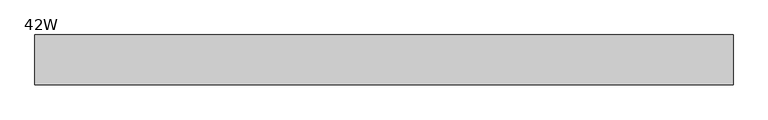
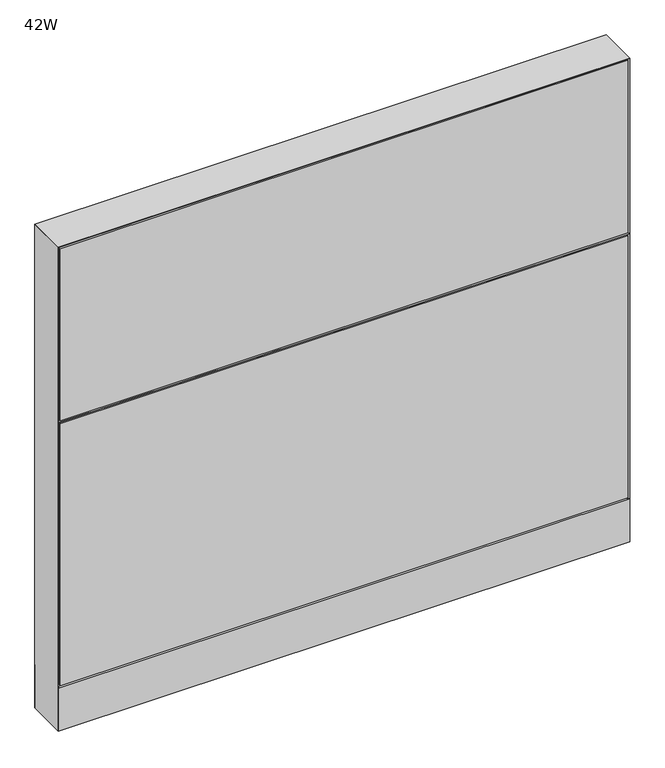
"""IFC4 building model written with IfcOpenShell, lengths in millimetres: furniture geometry, Steelcase - Montage - Frame - 38H - Enhanced Standard - Base Cavity : 42W."""

from ifc_helpers import new_model, si_unit, point, frame, frame_2d, origin, origin_with_axes, place, context, project, spatial, polyline, circle_curve, trimmed, segment, composite_curve, outline, extrude, faceted_brep, source, transform, mapped, element, save


def furniture_42w_d7db1be3(model_context):
    return source(origin(), model_context, "Body", "SolidModel", [
        extrude(outline(polyline([(3.175, 31.7500194), (3.175, 38.1000194), (1063.625, 38.1000194), (1063.625, 31.7500194), (3.175, 31.7500194)])), frame((0.0, 0.0, 92.075), z_axis=(0.0, 0.0, 1.0), x_axis=(1.0, 0.0, 0.0)), (0.0, 0.0, 1.0), 863.6),
        faceted_brep([(0.0, -38.1026297, 612.775), (1066.8, -38.1026297, 612.775), (1060.4500047, -31.7526299, 619.1249997), (6.3499917, -31.7526299, 619.1249997), (6.3499917, -31.7526299, 606.4250003), (1060.4500047, -31.7526299, 606.4250003)], [[[0, 1, 2, 3]], [[1, 0, 4, 5]], [[3, 2, 5, 4]], [[0, 3, 4]], [[2, 1, 5]]]),
        extrude(outline(polyline([(3.175, -31.7500194), (1063.625, -31.7500194), (1063.625, -38.1000194), (3.175, -38.1000194), (3.175, -31.7500194)])), frame((0.0, 0.0, 92.075), z_axis=(0.0, 0.0, 1.0), x_axis=(1.0, 0.0, 0.0)), (0.0, 0.0, 1.0), 517.525),
        extrude(outline(polyline([(3.175, -31.7500194), (1063.625, -31.7500194), (1063.625, -38.1000194), (3.175, -38.1000194), (3.175, -31.7500194)])), frame((0.0, 0.0, 615.95), z_axis=(0.0, 0.0, 1.0), x_axis=(1.0, 0.0, 0.0)), (0.0, 0.0, 1.0), 339.725),
        extrude(outline(polyline([(6.350003, -31.7499985), (1060.449997, -31.7499985), (1066.8, -38.1000015), (0.0, -38.1000015), (6.350003, -31.7499985)])), frame((0.0, 0.0, 4.064), z_axis=(0.0, 0.0, 1.0), x_axis=(1.0, 0.0, 0.0)), (0.0, 0.0, 1.0), 84.835997),
        extrude(outline(polyline([(6.3500002, 31.7500017), (0.0, 38.1000015), (1066.8, 38.1000015), (1060.4500002, 31.7500017), (6.3500002, 31.7500017)])), frame((0.0, 0.0, 4.064), z_axis=(0.0, 0.0, 1.0), x_axis=(1.0, 0.0, 0.0)), (0.0, 0.0, 1.0), 84.835997),
        faceted_brep([(1066.8, -38.1000015, 958.85), (0.0, -38.1000015, 958.85), (6.3500484, -31.749953, 952.4999516), (1060.4499516, -31.749953, 952.4999516), (6.3500484, 31.749953, 952.4999516), (1060.4499516, 31.749953, 952.4999516), (0.0, 38.1000015, 958.85), (1066.8, 38.1000015, 958.85)], [[[0, 1, 2, 3]], [[3, 2, 4, 5]], [[6, 7, 5, 4]], [[1, 0, 7, 6]], [[2, 1, 6, 4]], [[0, 3, 5, 7]]]),
        extrude(outline(composite_curve([segment(trimmed(circle_curve(frame_2d((44.45, 0.0)), 15.24), [point((29.21, 0.0))], [point((59.69, 0.0))], False, "CARTESIAN"), True, "CONTINUOUS"), segment(trimmed(circle_curve(frame_2d((44.45, 0.0)), 15.24), [point((59.69, 0.0))], [point((29.21, 0.0))], False, "CARTESIAN"), True, "CONTINUOUS")], self_intersect=False)), origin_with_axes(), (0.0, 0.0, 1.0), 4.064),
        extrude(outline(composite_curve([segment(trimmed(circle_curve(frame_2d((1022.35, 0.0)), 15.24), [point((1007.11, 0.0))], [point((1037.59, 0.0))], False, "CARTESIAN"), True, "CONTINUOUS"), segment(trimmed(circle_curve(frame_2d((1022.35, 0.0)), 15.24), [point((1037.59, 0.0))], [point((1007.11, 0.0))], False, "CARTESIAN"), True, "CONTINUOUS")], self_intersect=False)), origin_with_axes(), (0.0, 0.0, 1.0), 4.064),
        faceted_brep([(1066.8, -38.1000106, 4.064), (1066.8, 38.1000015, 4.064), (1066.8, 38.1000015, 958.85), (1066.8, -38.1000106, 958.8499637), (0.0, 38.1000015, 4.064), (0.0, -38.1000015, 4.064), (0.0, -38.1000015, 958.85), (0.0, 38.1000015, 958.85), (1060.4499879, 31.7500017, 606.425), (6.35, 31.7500017, 606.425), (6.3499998, 31.7500017, 619.125), (1060.4499879, 31.7500017, 619.125), (6.35, -31.7499985, 619.125), (1060.4499879, -31.7499985, 619.125), (6.350003, -31.7499985, 606.425), (1060.4499879, -31.7499985, 606.425), (6.35, 31.7500015, 4.064), (6.35, -31.7500015, 4.064), (1060.4499879, 31.7499894, 4.064), (1060.4499879, -31.7499985, 4.064), (6.35, 31.7500015, 952.5), (6.35, -31.7500015, 952.5), (1060.4499879, -31.7499985, 952.4999516), (1060.4499879, 31.7499896, 952.4999516)], [[[0, 1, 2, 3]], [[4, 5, 6, 7]], [[8, 9, 10, 11]], [[11, 10, 12, 13]], [[13, 12, 14, 15]], [[9, 8, 15, 14]], [[16, 17, 5, 4]], [[18, 1, 0, 19]], [[16, 4, 7, 20, 10, 9]], [[5, 17, 14, 12, 21, 6]], [[17, 16, 9, 14]], [[12, 10, 20, 21]], [[18, 19, 15, 8]], [[11, 13, 22, 23]], [[19, 0, 3, 22, 13, 15]], [[1, 18, 8, 11, 23, 2]], [[7, 6, 21, 20]], [[3, 2, 23, 22]]]),
    ])


if __name__ == "__main__":
    model = new_model("IFC4")
    model_context = context("Model", 3, world=origin())
    ifc_project = project(units=[si_unit("LENGTHUNIT", "METRE", prefix="MILLI")], contexts=[model_context])
    site = spatial("IfcSite", under=ifc_project)
    building = spatial("IfcBuilding", under=site)
    placement = place(None, origin())
    furniture_42w_shape = furniture_42w_d7db1be3(model_context)
    element("IfcFurniture", 1, ObjectType="Steelcase - Montage - Frame - 38H - Enhanced Standard - Base Cavity : 42W", at=placement, inside=building, context=model_context, shape_type="MappedRepresentation", body=[
        mapped(furniture_42w_shape, transform((0.0, 0.0, 0.0), x_axis=(1.0, 0.0, 0.0), y_axis=(0.0, 1.0, 0.0), z_axis=(0.0, 0.0, 1.0))),
    ])
    save(model, "model.ifc")
